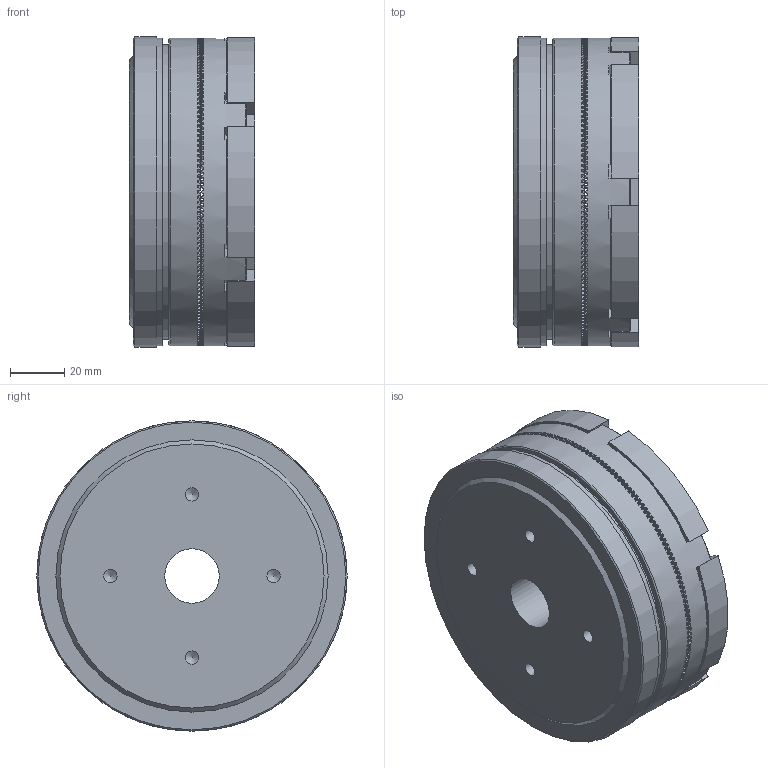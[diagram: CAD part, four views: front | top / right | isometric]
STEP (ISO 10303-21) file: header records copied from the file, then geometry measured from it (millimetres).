
FILE_DESCRIPTION(/* description */ (''),/* implementation_level */ '2;1');
FILE_NAME(/* name */ 'X:\INVENTOR\DISEGNI\07_Innesti_Elettmag_a_Dentini\07_01 EC_Z\07_01_114_01 EC114_Z\07_01_114_01 EC114_Z@STEP.stp',/* time_stamp */ '2018-06-27T16:01:04+02:00',/* author */ ('stefano'),/* organization */ (''),/* preprocessor_version */ 'ST-DEVELOPER v17',/* originating_system */ 'Autodesk Inventor 2018',/* authorisation */ '');
FILE_SCHEMA (('AUTOMOTIVE_DESIGN { 1 0 10303 214 3 1 1 }'));
Products named in the file (1): 07_01_114_01 EC114_Z_Substitute_1
Bounding box: 46 x 114 x 114 mm (x, y, z)
Volume: 386249.5 mm3; surface area: 70174.1 mm2
Topology: 2 solids, 2 shells, 1746 faces, 5168 edges, 3441 vertices
Faces by surface type: plane 1659, cylinder 66, cone 20, torus 1
Full cylindrical faces by diameter (mm): 2.6 x3, 3.242 x3, 4.917 x4, 5.2 x3, 5.5 x3, 8 x3, 8.5 x3, 20 x1, 50 x1, 53 x2, 70 x1, 90 x1, 101 x1, 102.5 x1, 103 x1, 108 x1, 113 x3, 114 x1
Entity records: 61140 total; most frequent: DIRECTION 11804, CARTESIAN_POINT 10508, ORIENTED_EDGE 10328, EDGE_CURVE 5164, AXIS2_PLACEMENT_3D 4929, VERTEX_POINT 3441, ELLIPSE 2190, LINE 1946
